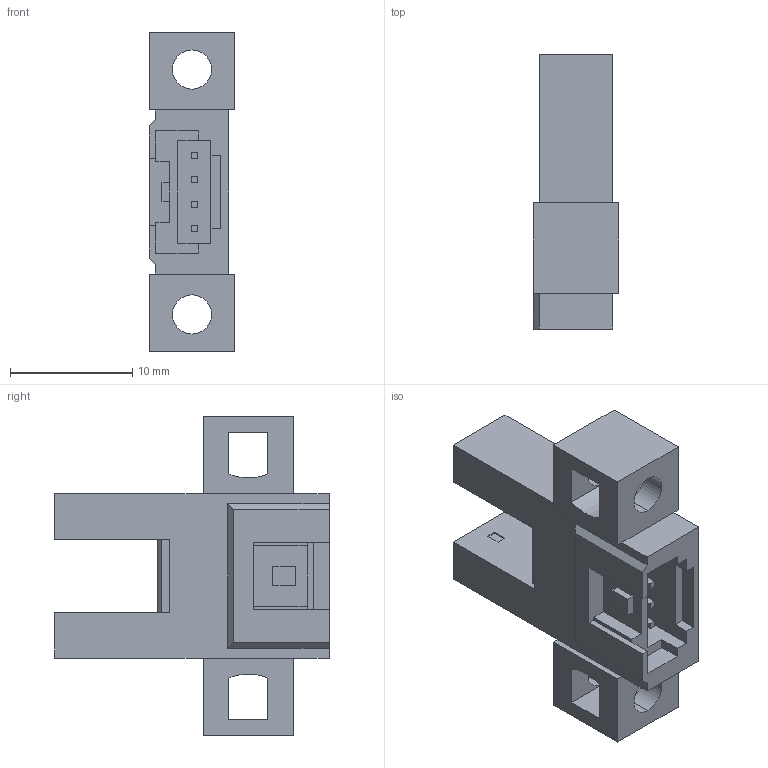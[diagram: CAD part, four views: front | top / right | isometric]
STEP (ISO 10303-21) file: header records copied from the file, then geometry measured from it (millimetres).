
FILE_DESCRIPTION (( 'STEP AP203' ), '1' );
FILE_NAME ('pm-k65.STEP', '2015-08-07T07:43:02', ( '' ), ( '' ), 'SwSTEP 2.0', 'SolidWorks 2010', '' );
FILE_SCHEMA (( 'CONFIG_CONTROL_DESIGN' ));
Length unit declared in the file: millimetre
Products named in the file (1): pm-k65
Bounding box: 7 x 22.4 x 26 mm (x, y, z)
Volume: 1749.1 mm3; surface area: 1763.9 mm2
Topology: 1 solids, 1 shells, 127 faces, 338 edges, 222 vertices
Faces by surface type: plane 117, cylinder 10
Entity records: 3973 total; most frequent: CARTESIAN_POINT 688, ORIENTED_EDGE 676, DIRECTION 614, EDGE_CURVE 338, LINE 318, VECTOR 318, VERTEX_POINT 222, AXIS2_PLACEMENT_3D 148
